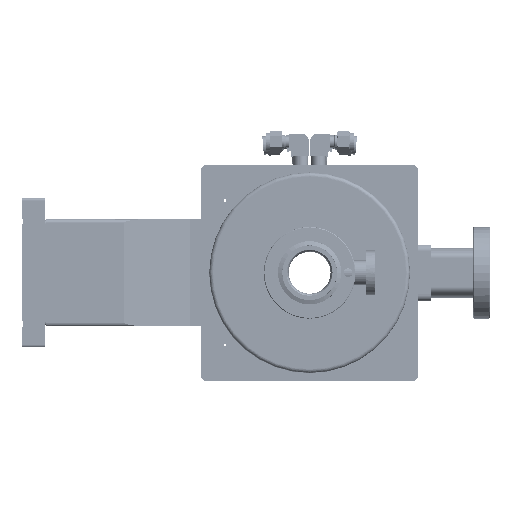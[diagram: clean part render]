
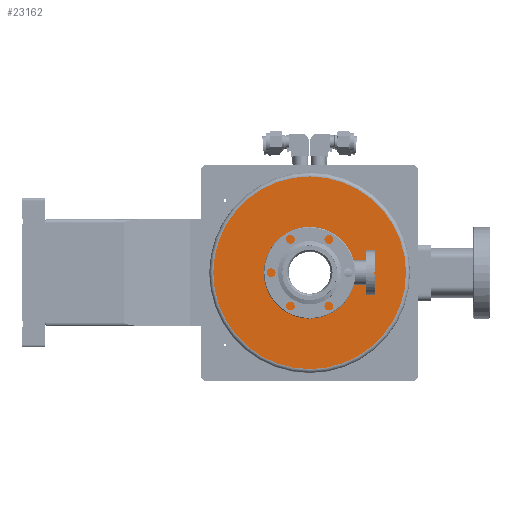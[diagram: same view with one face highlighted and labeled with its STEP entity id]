
A CAD part, front view. The second image highlights one B-rep face of the part: STEP entity #23162.
In plain terms, the highlighted planar face has unit normal (0, -1, 0).
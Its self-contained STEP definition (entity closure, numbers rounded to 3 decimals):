
#22715=CARTESIAN_POINT('',(0.,0.,0.));
#22716=DIRECTION('',(0.,-1.,0.));
#22717=DIRECTION('',(0.,0.,-1.));
#22718=AXIS2_PLACEMENT_3D('',#22715,#22716,#22717);
#22723=CARTESIAN_POINT('',(0.,0.,0.));
#22724=DIRECTION('',(0.,-1.,0.));
#22725=DIRECTION('',(0.,0.,1.));
#22726=AXIS2_PLACEMENT_3D('',#22723,#22724,#22725);
#22731=CARTESIAN_POINT('',(0.,0.,0.));
#22732=DIRECTION('',(0.,1.,0.));
#22733=DIRECTION('',(-1.,0.,0.));
#22734=AXIS2_PLACEMENT_3D('',#22731,#22732,#22733);
#22739=CARTESIAN_POINT('',(0.,0.,0.));
#22740=DIRECTION('',(0.,1.,0.));
#22741=DIRECTION('',(1.,0.,0.));
#22742=AXIS2_PLACEMENT_3D('',#22739,#22740,#22741);
#22867=CARTESIAN_POINT('',(0.,0.,-73.5));
#22868=CARTESIAN_POINT('',(0.,0.,73.5));
#22869=VERTEX_POINT('',#22867);
#22870=VERTEX_POINT('',#22868);
#22879=CARTESIAN_POINT('',(-22.,0.,0.));
#22880=CARTESIAN_POINT('',(22.,0.,0.));
#22881=VERTEX_POINT('',#22879);
#22882=VERTEX_POINT('',#22880);
#23146=CARTESIAN_POINT('',(0.,0.,0.));
#23147=DIRECTION('',(0.,1.,0.));
#23148=DIRECTION('',(0.,0.,-1.));
#23149=AXIS2_PLACEMENT_3D('',#23146,#23147,#23148);
#23150=PLANE('',#23149);
#23152=ORIENTED_EDGE('',*,*,#23151,.F.);
#23153=ORIENTED_EDGE('',*,*,#23136,.F.);
#23154=EDGE_LOOP('',(#23152,#23153));
#23155=FACE_OUTER_BOUND('',#23154,.F.);
#23157=ORIENTED_EDGE('',*,*,#23156,.F.);
#23159=ORIENTED_EDGE('',*,*,#23158,.F.);
#23160=EDGE_LOOP('',(#23157,#23159));
#23161=FACE_BOUND('',#23160,.F.);
#22719=CIRCLE('',#22718,73.5);
#22727=CIRCLE('',#22726,73.5);
#22735=CIRCLE('',#22734,22.);
#22743=CIRCLE('',#22742,22.);
#23136=EDGE_CURVE('',#22870,#22869,#22727,.T.);
#23151=EDGE_CURVE('',#22869,#22870,#22719,.T.);
#23156=EDGE_CURVE('',#22881,#22882,#22735,.T.);
#23158=EDGE_CURVE('',#22882,#22881,#22743,.T.);
#23162=ADVANCED_FACE('',(#23155,#23161),#23150,.F.);
